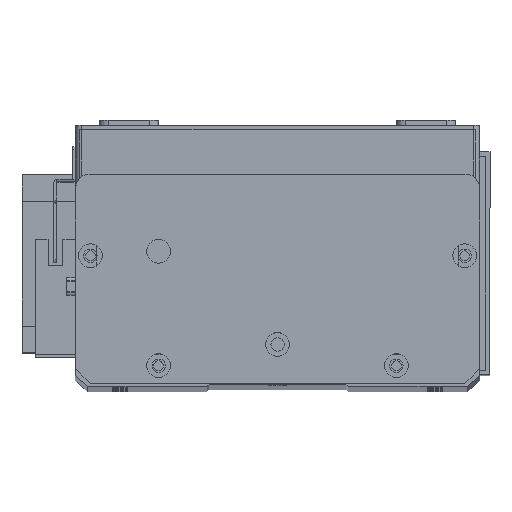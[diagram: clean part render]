
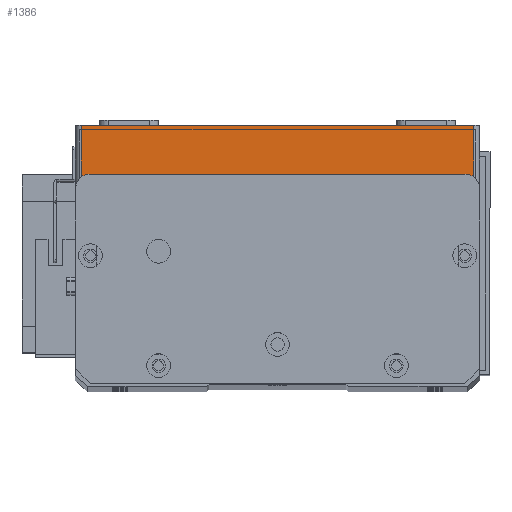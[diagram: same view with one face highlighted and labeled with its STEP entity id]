
A CAD part, top view. The second image highlights one B-rep face of the part: STEP entity #1386.
In plain terms, the highlighted planar face has unit normal (0, 0, 1) as drawn and (0, -1, 0) by its records, which use the part's own axes.
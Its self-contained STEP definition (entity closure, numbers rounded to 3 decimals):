
#371 = CARTESIAN_POINT ( 'NONE',  ( 134., 0., 19.5 ) ) ;
#386 = ORIENTED_EDGE ( 'NONE', *, *, #11032, .F. ) ;
#970 = LINE ( 'NONE', #5537, #12190 ) ;
#1169 = ORIENTED_EDGE ( 'NONE', *, *, #13762, .T. ) ;
#1386 = ADVANCED_FACE ( 'NONE', ( #25961 ), #18775, .F. ) ;
#3736 = ORIENTED_EDGE ( 'NONE', *, *, #5508, .T. ) ;
#4540 = EDGE_CURVE ( 'NONE', #14775, #16492, #28459, .T. ) ;
#5508 = EDGE_CURVE ( 'NONE', #19444, #14775, #19838, .T. ) ;
#5537 = CARTESIAN_POINT ( 'NONE',  ( 2., 0., 19.5 ) ) ;
#5666 = ORIENTED_EDGE ( 'NONE', *, *, #4540, .T. ) ;
#5717 = DIRECTION ( 'NONE',  ( 0., 0., -1. ) ) ;
#6486 = DIRECTION ( 'NONE',  ( 1., 0., 0. ) ) ;
#7168 = CARTESIAN_POINT ( 'NONE',  ( 0., 0., 0. ) ) ;
#7787 = VERTEX_POINT ( 'NONE', #22113 ) ;
#10331 = CARTESIAN_POINT ( 'NONE',  ( 2., 0., 0. ) ) ;
#10387 = VECTOR ( 'NONE', #11174, 1000. ) ;
#11032 = EDGE_CURVE ( 'NONE', #7787, #16492, #17343, .T. ) ;
#11080 = CARTESIAN_POINT ( 'NONE',  ( 134., 0., 19.5 ) ) ;
#11174 = DIRECTION ( 'NONE',  ( 0., 0., 1. ) ) ;
#12190 = VECTOR ( 'NONE', #5717, 1000. ) ;
#13762 = EDGE_CURVE ( 'NONE', #7787, #19444, #970, .T. ) ;
#14775 = VERTEX_POINT ( 'NONE', #28477 ) ;
#15028 = EDGE_LOOP ( 'NONE', ( #386, #1169, #3736, #5666 ) ) ;
#15552 = DIRECTION ( 'NONE',  ( 1., 0., 0. ) ) ;
#15807 = CARTESIAN_POINT ( 'NONE',  ( 0., 0., 19.5 ) ) ;
#16492 = VERTEX_POINT ( 'NONE', #371 ) ;
#17343 = LINE ( 'NONE', #15807, #27879 ) ;
#17823 = CARTESIAN_POINT ( 'NONE',  ( 0., 0., 19.5 ) ) ;
#18271 = DIRECTION ( 'NONE',  ( 0., 0., 1. ) ) ;
#18775 = PLANE ( 'NONE',  #20856 ) ;
#19444 = VERTEX_POINT ( 'NONE', #10331 ) ;
#19838 = LINE ( 'NONE', #7168, #25107 ) ;
#20856 = AXIS2_PLACEMENT_3D ( 'NONE', #17823, #27656, #18271 ) ;
#22113 = CARTESIAN_POINT ( 'NONE',  ( 2., 0., 19.5 ) ) ;
#25107 = VECTOR ( 'NONE', #6486, 1000. ) ;
#25961 = FACE_OUTER_BOUND ( 'NONE', #15028, .T. ) ;
#27656 = DIRECTION ( 'NONE',  ( 0., 1., 0. ) ) ;
#27879 = VECTOR ( 'NONE', #15552, 1000. ) ;
#28459 = LINE ( 'NONE', #11080, #10387 ) ;
#28477 = CARTESIAN_POINT ( 'NONE',  ( 134., 0., 0. ) ) ;
